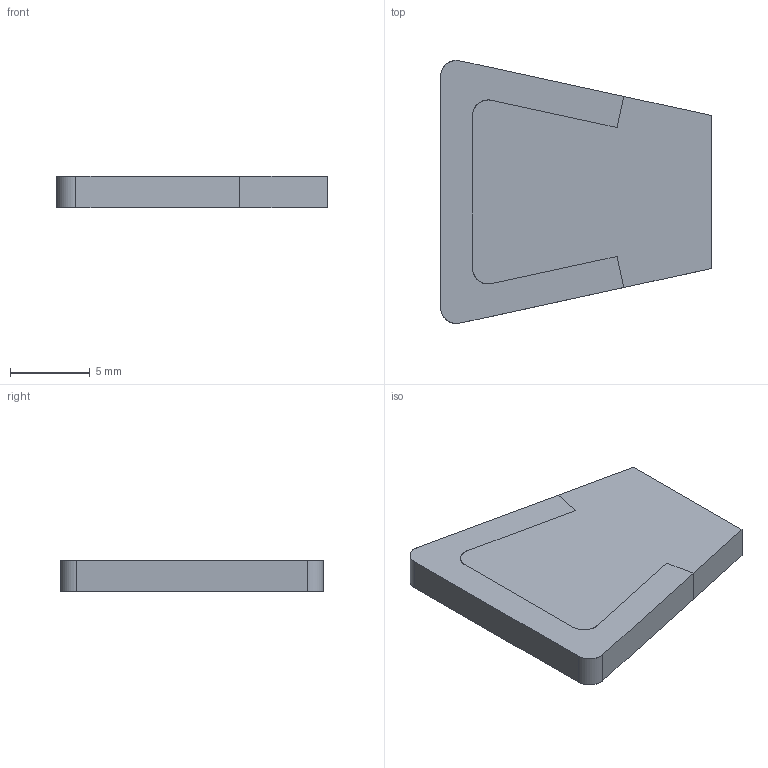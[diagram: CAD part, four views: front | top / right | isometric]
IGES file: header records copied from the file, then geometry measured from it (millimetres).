
Start section: SolidWorks IGES file using analytic representation for surfaces
Global section: file name: C:\Documents and Settings\ARGE\Desktop\yeni katalog tolgay düzenli\E kataloðu\17 LÝK BALIK SIRTI DÜZ PROFÝL ALPOLEN 1000\MONTAJ\export\206 KSD 201 mon.IGS; native system: SolidWorks 2006 by SolidWorks Corporation; preprocessor: SolidWorks 2006 by SolidWorks Corporation; author: ARGE2; date: 060912.120727; units: millimetre
Bounding box: 17 x 16.52 x 2 mm (x, y, z)
Surface area: 703.8 mm2 (no closed solid volume)
Topology: 0 solids, 0 shells, 26 faces, 216 edges, 216 vertices
Faces by surface type: bspline 20, revolution 6
